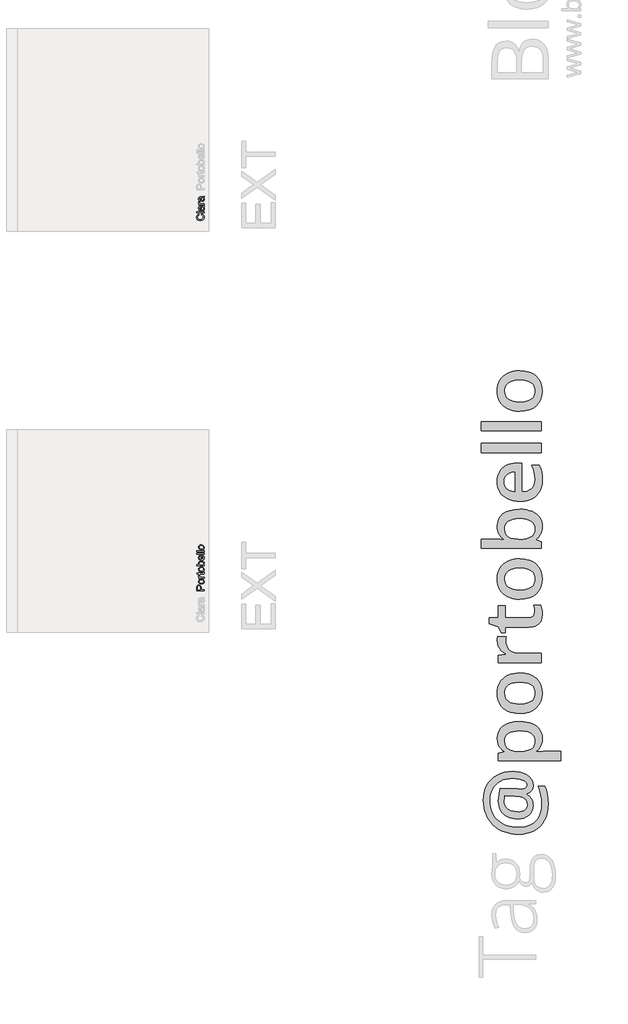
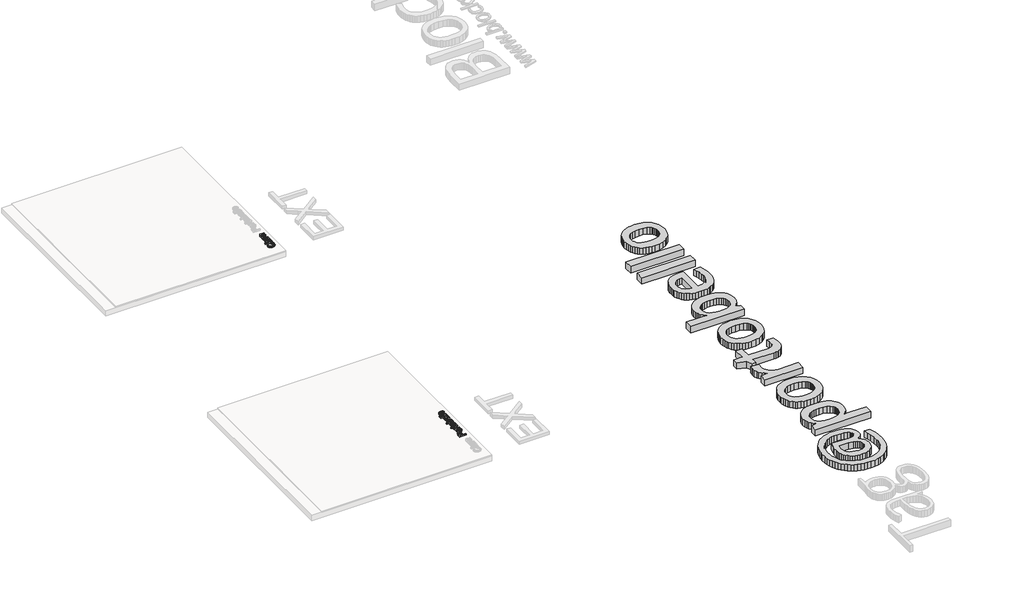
# One storey, part 5 of 6: 3 proxies.
"""IFC4 building model written with IfcOpenShell, lengths in millimetres."""

from ifc_helpers import new_model, si_unit, frame, origin, origin_with_axes, place, context, project, spatial, polyline, outline, extrude, element, save

model = new_model("IFC4")

# Units and contexts
model_context = context("Model", 3, world=origin())
ifc_project = project(units=[si_unit("LENGTHUNIT", "METRE", prefix="MILLI")], contexts=[model_context])

# Site, building, storey
site = spatial("IfcSite", under=ifc_project)
building = spatial("IfcBuilding", under=site)
storey = spatial("IfcBuildingStorey", under=building, Name="PORTOBELLO - SHOWROOM", Elevation=0.0)

# Proxies
placement = place(None, origin())
element("IfcBuildingElementProxy", 1, Name="10mm Arial", ObjectType="10mm Arial", at=placement, inside=storey, context=model_context, shape_type="SweptSolid", body=[
    extrude(outline(polyline([(153128.3895945, -6814.8655286), (153027.9332844, -6814.8655286), (153027.9332844, -6777.6358707), (153028.8897775, -6762.6262853), (153033.5864043, -6750.4248658), (153043.298489, -6742.5154029), (153056.995962, -6739.523296), (153068.8356309, -6741.5435813), (153078.7009997, -6747.6044372), (153085.3596638, -6758.9382683), (153087.5792185, -6776.7774794), (153087.5792185, -6802.3084899), (153128.3895945, -6802.3084899), (153128.3895945, -6814.8655286)]), holes=[polyline([(153075.0221797, -6802.3084899), (153075.0221797, -6776.0417154), (153070.4113921, -6757.5495138), (153064.8625053, -6753.4476295), (153057.4374204, -6752.0803348), (153047.0386226, -6755.3054336), (153041.3487144, -6763.7789822), (153040.4903231, -6776.336021), (153040.4903231, -6802.3084899), (153075.0221797, -6802.3084899)])]), frame((0.0, 0.0, 17.0), z_axis=(0.0, 0.0, 1.0), x_axis=(1.0, 0.0, 0.0)), (0.0, 0.0, 1.0), 20.0),
    extrude(outline(polyline([(153091.5032931, -6726.9662573), (153073.7161987, -6724.2500619), (153061.2143422, -6716.1014757), (153055.089107, -6706.0337717), (153053.0473619, -6693.979505), (153055.533631, -6680.7878698), (153062.9924385, -6670.2511163), (153074.8351731, -6663.3441319), (153090.4732235, -6661.0418037), (153112.8159234, -6665.1130311), (153125.4588013, -6676.9710941), (153129.9592243, -6693.979505), (153127.4821522, -6707.3305558), (153120.0509359, -6717.8550465), (153107.959881, -6724.6884546), (153091.5032931, -6726.9662573)]), holes=[polyline([(153091.4787677, -6714.4092185), (153102.8432556, -6712.9560846), (153110.9397252, -6708.596683), (153115.7865705, -6702.0361207), (153117.4021856, -6693.979505), (153115.7773734, -6685.9596775), (153110.902937, -6679.411378), (153102.6991685, -6675.0519764), (153091.0863602, -6673.5988425), (153080.052966, -6675.0611734), (153072.066861, -6679.4481662), (153067.2200158, -6686.0056628), (153065.6044007, -6693.979505), (153067.2138844, -6702.0361207), (153072.0423356, -6708.596683), (153080.1204111, -6712.9560846), (153091.4787677, -6714.4092185)])]), frame((0.0, 0.0, 17.0), z_axis=(0.0, 0.0, 1.0), x_axis=(1.0, 0.0, 0.0)), (0.0, 0.0, 1.0), 20.0),
    extrude(outline(polyline([(153128.3895945, -6646.9151351), (153054.6169917, -6646.9151351), (153054.6169917, -6635.9277262), (153065.5308243, -6635.9277262), (153055.4753831, -6628.1286279), (153053.0473619, -6620.2804787), (153056.9223856, -6607.674389), (153068.1795746, -6611.8682437), (153065.6044007, -6620.6974116), (153068.0814728, -6627.7975341), (153074.9486033, -6632.3224826), (153089.6148322, -6634.3580963), (153128.3895945, -6634.3580963), (153128.3895945, -6646.9151351)])), frame((0.0, 0.0, 17.0), z_axis=(0.0, 0.0, 1.0), x_axis=(1.0, 0.0, 0.0)), (0.0, 0.0, 1.0), 20.0),
    extrude(outline(polyline([(153117.9172204, -6573.1425323), (153128.7574765, -6571.5729025), (153129.9592243, -6580.9661561), (153127.8745597, -6591.4875812), (153122.4053807, -6596.736031), (153108.1560848, -6598.2566099), (153067.1740305, -6598.2566099), (153067.1740305, -6607.674389), (153056.9223856, -6607.674389), (153054.6169917, -6607.674389), (153054.6169917, -6598.2566099), (153036.6888758, -6598.2566099), (153029.3067105, -6585.6995711), (153054.6169917, -6585.6995711), (153054.6169917, -6573.1425323), (153067.1740305, -6573.1425323), (153067.1740305, -6585.6995711), (153107.7882028, -6585.6995711), (153114.2629259, -6585.0373835), (153116.556057, -6582.8914052), (153117.4021856, -6578.6117113), (153117.9172204, -6573.1425323)])), frame((0.0, 0.0, 17.0), z_axis=(0.0, 0.0, 1.0), x_axis=(1.0, 0.0, 0.0)), (0.0, 0.0, 1.0), 20.0),
    extrude(outline(polyline([(153091.5032931, -6563.7247533), (153073.7161987, -6561.0085579), (153061.2143422, -6552.8599717), (153055.089107, -6542.7922677), (153053.0473619, -6530.738001), (153055.533631, -6517.5463658), (153062.9924385, -6507.0096123), (153074.8351731, -6500.1026279), (153090.4732235, -6497.8002997), (153112.8159234, -6501.8715271), (153125.4588013, -6513.7295901), (153129.9592243, -6530.738001), (153127.4821522, -6544.0890518), (153120.0509359, -6554.6135425), (153107.959881, -6561.4469506), (153091.5032931, -6563.7247533)]), holes=[polyline([(153091.4787677, -6551.1677145), (153102.8432556, -6549.7145806), (153110.9397252, -6545.355179), (153115.7865705, -6538.7946167), (153117.4021856, -6530.738001), (153115.7773734, -6522.7181735), (153110.902937, -6516.169874), (153102.6991685, -6511.8104724), (153091.0863602, -6510.3573385), (153080.052966, -6511.8196694), (153072.066861, -6516.2066622), (153067.2200158, -6522.7641588), (153065.6044007, -6530.738001), (153067.2138844, -6538.7946167), (153072.0423356, -6545.355179), (153080.1204111, -6549.7145806), (153091.4787677, -6551.1677145)])]), frame((0.0, 0.0, 17.0), z_axis=(0.0, 0.0, 1.0), x_axis=(1.0, 0.0, 0.0)), (0.0, 0.0, 1.0), 20.0),
    extrude(outline(polyline([(153128.3895945, -6471.1165923), (153128.3895945, -6483.6736311), (153027.9332844, -6483.6736311), (153027.9332844, -6471.1165923), (153065.1874677, -6471.1165923), (153056.0823884, -6462.3242127), (153053.0473619, -6451.3981174), (153055.7819514, -6438.8165532), (153063.4706851, -6429.0554176), (153075.4268499, -6423.058941), (153090.3996471, -6420.8884373), (153107.1628034, -6423.1355831), (153119.634003, -6429.8770207), (153127.377919, -6439.7699807), (153129.9592243, -6451.4716938), (153126.6298923, -6462.6369124), (153116.6418961, -6471.1165923), (153128.3895945, -6471.1165923)]), holes=[polyline([(153090.9882583, -6471.1165923), (153108.5484922, -6467.6830271), (153115.1887622, -6461.1040707), (153117.4021856, -6452.5508143), (153115.7712421, -6445.303539), (153110.8784115, -6439.1108588), (153102.7543508, -6434.8618217), (153091.4297167, -6433.445476), (153079.9395357, -6434.8035737), (153071.9074455, -6438.8778668), (153067.1801619, -6444.877409), (153065.6044007, -6452.0112541), (153067.2353442, -6459.2585294), (153072.1281747, -6465.4512096), (153080.1050826, -6469.7002467), (153090.9882583, -6471.1165923)])]), frame((0.0, 0.0, 17.0), z_axis=(0.0, 0.0, 1.0), x_axis=(1.0, 0.0, 0.0)), (0.0, 0.0, 1.0), 20.0),
    extrude(outline(polyline([(153106.4147767, -6355.1111365), (153107.9844065, -6342.7993524), (153117.2611641, -6347.2353962), (153124.1957398, -6354.3140589), (153128.5183532, -6363.8759251), (153129.9592243, -6375.7615792), (153127.4729552, -6390.4952531), (153120.0141477, -6401.8321499), (153108.06718, -6409.0610311), (153092.1164298, -6411.4706582), (153075.629185, -6409.0365057), (153063.2990068, -6401.7340481), (153055.6102731, -6390.5504354), (153053.0473619, -6376.4728177), (153055.6041418, -6362.8335927), (153063.2744814, -6351.9350886), (153075.5801341, -6344.7889809), (153092.0428534, -6342.406945), (153095.4273677, -6342.4805214), (153095.4273677, -6398.9136194), (153104.8267527, -6396.74005), (153111.7368029, -6391.6908696), (153115.9858399, -6384.4037404), (153117.4021856, -6375.5163245), (153114.7779607, -6363.2045404), (153106.4147767, -6355.1111365)]), holes=[polyline([(153082.870329, -6398.9136194), (153082.870329, -6354.9639837), (153071.4905126, -6359.9917043), (153067.0759286, -6367.312556), (153065.6044007, -6376.5218687), (153070.3010275, -6391.9851752), (153075.7916662, -6396.8504146), (153082.870329, -6398.9136194)])]), frame((0.0, 0.0, 17.0), z_axis=(0.0, 0.0, 1.0), x_axis=(1.0, 0.0, 0.0)), (0.0, 0.0, 1.0), 20.0),
    extrude(outline(polyline([(153128.3895945, -6329.8499062), (153027.9332844, -6329.8499062), (153027.9332844, -6317.2928674), (153128.3895945, -6317.2928674), (153128.3895945, -6329.8499062)])), frame((0.0, 0.0, 17.0), z_axis=(0.0, 0.0, 1.0), x_axis=(1.0, 0.0, 0.0)), (0.0, 0.0, 1.0), 20.0),
    extrude(outline(polyline([(153128.3895945, -6298.4573093), (153027.9332844, -6298.4573093), (153027.9332844, -6285.9002705), (153128.3895945, -6285.9002705), (153128.3895945, -6298.4573093)])), frame((0.0, 0.0, 17.0), z_axis=(0.0, 0.0, 1.0), x_axis=(1.0, 0.0, 0.0)), (0.0, 0.0, 1.0), 20.0),
    extrude(outline(polyline([(153091.5032931, -6270.203972), (153073.7161987, -6267.4877766), (153061.2143422, -6259.3391905), (153055.089107, -6249.2714865), (153053.0473619, -6237.2172198), (153055.533631, -6224.0255846), (153062.9924385, -6213.4888311), (153074.8351731, -6206.5818467), (153090.4732235, -6204.2795185), (153112.8159234, -6208.3507459), (153125.4588013, -6220.2088089), (153129.9592243, -6237.2172198), (153127.4821522, -6250.5682706), (153120.0509359, -6261.0927613), (153107.959881, -6267.9261694), (153091.5032931, -6270.203972)]), holes=[polyline([(153091.4787677, -6257.6469333), (153102.8432556, -6256.1937994), (153110.9397252, -6251.8343978), (153115.7865705, -6245.2738355), (153117.4021856, -6237.2172198), (153115.7773734, -6229.1973923), (153110.902937, -6222.6490928), (153102.6991685, -6218.2896912), (153091.0863602, -6216.8365573), (153080.052966, -6218.2988882), (153072.066861, -6222.685881), (153067.2200158, -6229.2433776), (153065.6044007, -6237.2172198), (153067.2138844, -6245.2738355), (153072.0423356, -6251.8343978), (153080.1204111, -6256.1937994), (153091.4787677, -6257.6469333)])]), frame((0.0, 0.0, 17.0), z_axis=(0.0, 0.0, 1.0), x_axis=(1.0, 0.0, 0.0)), (0.0, 0.0, 1.0), 20.0),
])
element("IfcBuildingElementProxy", 2, Name="10mm Arial", ObjectType="10mm Arial", at=placement, inside=storey, context=model_context, shape_type="SweptSolid", body=[
    extrude(outline(polyline([(153092.6805155, -1804.2321856), (153095.9178771, -1791.6751468), (153110.5503834, -1797.4692882), (153121.2404211, -1806.5621049), (153127.7795235, -1818.506007), (153129.9592243, -1832.8534048), (153128.3098867, -1847.4184661), (153123.3618739, -1858.9852892), (153115.2868641, -1867.8512453), (153104.2565356, -1874.3137056), (153077.40115, -1879.5744182), (153062.7533152, -1878.0875618), (153050.1043059, -1873.6269926), (153039.8557267, -1866.4257025), (153032.409182, -1856.7166835), (153027.8750364, -1845.2019771), (153026.3636545, -1832.5836247), (153028.3195604, -1818.815641), (153034.1872783, -1807.4327589), (153043.6050573, -1798.7905977), (153056.211147, -1793.2447766), (153059.2032539, -1805.8018154), (153043.7644729, -1816.1025113), (153038.9206933, -1833.074134), (153044.2917704, -1852.7190325), (153058.7127446, -1863.816806), (153077.3766245, -1867.0173794), (153099.0080858, -1863.2281949), (153112.8281861, -1851.4314455), (153117.4021856, -1834.1042036), (153115.8448185, -1823.6226324), (153111.1727171, -1814.8885007), (153103.4349325, -1808.2942159), (153092.6805155, -1804.2321856)])), frame((0.0, 0.0, 17.0), z_axis=(0.0, 0.0, 1.0), x_axis=(1.0, 0.0, 0.0)), (0.0, 0.0, 1.0), 20.0),
    extrude(outline(polyline([(153128.3895945, -1775.9788483), (153027.9332844, -1775.9788483), (153027.9332844, -1763.4218096), (153128.3895945, -1763.4218096), (153128.3895945, -1775.9788483)])), frame((0.0, 0.0, 17.0), z_axis=(0.0, 0.0, 1.0), x_axis=(1.0, 0.0, 0.0)), (0.0, 0.0, 1.0), 20.0),
    extrude(outline(polyline([(153118.9718154, -1697.497356), (153127.4821522, -1709.6742501), (153129.9592243, -1723.1264684), (153128.4693023, -1733.6203023), (153123.999536, -1741.3611526), (153117.2121132, -1746.1344215), (153108.7692214, -1747.7255111), (153098.8364076, -1745.3220154), (153091.6259205, -1739.0067078), (153087.5056421, -1730.2143281), (153085.6171812, -1719.3495465), (153081.3006991, -1697.5709324), (153078.504796, -1697.497356), (153069.2341697, -1700.9554468), (153065.6044007, -1714.8368607), (153068.0201591, -1727.5410523), (153076.5918096, -1733.5988425), (153075.0221797, -1746.1558813), (153062.7594466, -1740.7234905), (153055.5734849, -1729.7851325), (153053.0473619, -1713.21818), (153055.2791793, -1698.0001281), (153060.8832484, -1689.4039521), (153069.4058479, -1685.5534539), (153080.3932569, -1684.9403173), (153096.0159789, -1684.9403173), (153117.8313812, -1684.3026551), (153128.3895945, -1681.8010576), (153128.3895945, -1694.3580963), (153118.9718154, -1697.497356)]), holes=[polyline([(153093.8577379, -1697.497356), (153097.7082361, -1717.7553912), (153099.7438498, -1728.5588592), (153103.0547878, -1733.4516897), (153107.8863046, -1735.1684723), (153114.6798588, -1731.4283387), (153117.4021856, -1720.4531925), (153114.397816, -1707.749001), (153107.1260152, -1699.5574952), (153097.4139305, -1697.5709324), (153093.8577379, -1697.497356)])]), frame((0.0, 0.0, 17.0), z_axis=(0.0, 0.0, 1.0), x_axis=(1.0, 0.0, 0.0)), (0.0, 0.0, 1.0), 20.0),
    extrude(outline(polyline([(153128.3895945, -1667.674389), (153054.6169917, -1667.674389), (153054.6169917, -1656.68698), (153065.5308243, -1656.68698), (153055.4753831, -1648.8878817), (153053.0473619, -1641.0397325), (153056.9223856, -1628.4336428), (153068.1795746, -1632.6274975), (153065.6044007, -1641.4566654), (153068.0814728, -1648.5567879), (153074.9486033, -1653.0817365), (153089.6148322, -1655.1173502), (153128.3895945, -1655.1173502), (153128.3895945, -1667.674389)])), frame((0.0, 0.0, 17.0), z_axis=(0.0, 0.0, 1.0), x_axis=(1.0, 0.0, 0.0)), (0.0, 0.0, 1.0), 20.0),
    extrude(outline(polyline([(153118.9718154, -1573.4965982), (153127.4821522, -1585.6734922), (153129.9592243, -1599.1257105), (153128.4693023, -1609.6195444), (153123.999536, -1617.3603947), (153117.2121132, -1622.1336636), (153108.7692214, -1623.7247533), (153098.8364076, -1621.3212576), (153091.6259205, -1615.00595), (153087.5056421, -1606.2135703), (153085.6171812, -1595.3487887), (153081.3006991, -1573.5701746), (153078.504796, -1573.4965982), (153069.2341697, -1576.9546889), (153065.6044007, -1590.8361029), (153068.0201591, -1603.5402945), (153076.5918096, -1609.5980846), (153075.0221797, -1622.1551234), (153062.7594466, -1616.7227326), (153055.5734849, -1605.7843746), (153053.0473619, -1589.2174221), (153055.2791793, -1573.9993702), (153060.8832484, -1565.4031943), (153069.4058479, -1561.5526961), (153080.3932569, -1560.9395594), (153096.0159789, -1560.9395594), (153117.8313812, -1560.3018973), (153128.3895945, -1557.8002997), (153128.3895945, -1570.3573385), (153118.9718154, -1573.4965982)]), holes=[polyline([(153093.8577379, -1573.4965982), (153097.7082361, -1593.7546334), (153099.7438498, -1604.5581013), (153103.0547878, -1609.4509319), (153107.8863046, -1611.1677145), (153114.6798588, -1607.4275809), (153117.4021856, -1596.4524347), (153114.397816, -1583.7482431), (153107.1260152, -1575.5567374), (153097.4139305, -1573.5701746), (153093.8577379, -1573.4965982)])]), frame((0.0, 0.0, 17.0), z_axis=(0.0, 0.0, 1.0), x_axis=(1.0, 0.0, 0.0)), (0.0, 0.0, 1.0), 20.0),
])
element("IfcBuildingElementProxy", 3, Name="80mm OpenSans Bold", ObjectType="80mm OpenSans Bold", at=placement, inside=storey, context=model_context, shape_type="SweptSolid", body=[
    extrude(outline(polyline([(157242.3548992, -9227.593007), (157292.5614689, -9230.4473602), (157341.7464808, -9239.0104197), (157388.0470936, -9253.4023688), (157429.6004664, -9273.7433907), (157464.8442165, -9299.973394), (157492.215961, -9332.0322868), (157502.469098, -9350.3226814), (157509.7927673, -9370.2205275), (157515.6517027, -9414.8385743), (157509.8228131, -9454.709381), (157502.5367011, -9471.918126), (157492.3361443, -9487.3090987), (157466.2563701, -9511.2556194), (157434.6481646, -9525.1668353), (157434.6481646, -9531.8970996), (157465.8056828, -9556.5346743), (157491.9755944, -9589.1043461), (157502.3338918, -9608.3937643), (157509.7326756, -9629.7262984), (157514.1719459, -9653.1019485), (157515.6517027, -9678.5207145), (157512.0537154, -9720.0740874), (157501.2597536, -9756.5196703), (157483.2698173, -9787.8574635), (157458.0839064, -9814.0874667), (157426.9789684, -9834.8040615), (157391.2319508, -9849.6016292), (157350.8428536, -9858.4801698), (157305.8116768, -9861.4396833), (157270.094705, -9859.6294225), (157236.4959637, -9854.19864), (157205.015453, -9845.1473359), (157175.6531727, -9832.4755102), (157148.8598103, -9816.4460638), (157125.0860531, -9797.3218976), (157104.331901, -9775.1030117), (157086.5973541, -9749.7894061), (157072.4007029, -9721.7641649), (157062.2602377, -9691.4103725), (157056.1759586, -9658.7280288), (157054.1478656, -9623.7171339), (157056.3111648, -9575.3734051), (157062.8010625, -9526.9695847), (157081.3092893, -9450.4128284), (157306.2924099, -9460.7485914), (157333.4538337, -9462.1907909), (157349.0776615, -9462.4311575), (157393.3652042, -9458.4050172), (157408.8838716, -9453.3723419), (157419.9858031, -9446.3265965), (157433.3261484, -9428.8399277), (157437.7729302, -9408.5890431), (157436.1128985, -9394.6177356), (157431.1328034, -9381.7881693), (157422.8326448, -9370.1003442), (157411.2124229, -9359.5542605), (157380.2051338, -9342.0075), (157340.3042813, -9329.2680711), (157293.5830269, -9321.5162489), (157242.1145326, -9318.9323081), (157195.3331866, -9321.3134396), (157152.0972477, -9328.4568339), (157112.4067159, -9340.3624912), (157076.2615911, -9357.0304113), (157043.9322859, -9377.844655), (157015.6892125, -9402.1892829), (156991.532371, -9430.0642949), (156971.4617614, -9461.4696911), (156955.6877045, -9495.7970436), (156944.420521, -9532.4379244), (156937.6602109, -9571.3923336), (156935.4067742, -9612.6602711), (156937.1569433, -9654.9272322), (156942.4074509, -9694.715413), (156951.1582967, -9732.0248134), (156963.409481, -9766.8554334), (156978.822988, -9799.1171355), (156997.0608024, -9828.7197824), (157018.1229241, -9855.6633739), (157042.0093532, -9879.9479101), (157068.479723, -9901.490765), (157097.293667, -9920.2093126), (157128.4511852, -9936.1035528), (157161.9522775, -9949.1734857), (157197.5039973, -9959.3740425), (157234.8133977, -9966.6601545), (157314.7052403, -9972.4890441), (157363.8677177, -9970.2506303), (157409.1993528, -9963.5353889), (157450.7001454, -9952.34332), (157488.3700957, -9936.6744234), (157521.9613255, -9916.6488826), (157551.2259568, -9892.3868807), (157576.1639897, -9863.8884179), (157596.7754241, -9831.153494), (157612.9175423, -9794.377407), (157624.4476268, -9753.7554547), (157631.3656775, -9709.287637), (157633.6716944, -9660.9739541), (157630.2464706, -9598.2983679), (157619.9707992, -9535.7429649), (157604.8877962, -9476.1921443), (157587.0405775, -9422.5303049), (157670.4477814, -9422.5303049), (157688.7156416, -9473.4880202), (157703.1376365, -9530.2145336), (157712.5119332, -9592.16902), (157715.6366988, -9658.8106548), (157712.6771852, -9720.5473091), (157703.7986446, -9777.6418837), (157689.0010769, -9830.0943788), (157668.2844822, -9877.9047942), (157641.9868758, -9920.7351145), (157610.4462734, -9958.2473241), (157573.6626749, -9990.4414232), (157531.6360804, -10017.3174116), (157484.7871313, -10038.5072281), (157433.5364692, -10053.6428113), (157377.884094, -10062.7241612), (157317.8300059, -10065.7512779), (157268.8102461, -10063.7907879), (157221.7434648, -10057.9093181), (157176.6296619, -10048.1068685), (157133.4688376, -10034.3834389), (157092.6365645, -10016.9643732), (157054.5084155, -9996.075015), (157019.0843905, -9971.7153642), (156986.3644895, -9943.8854209), (156956.7468198, -9912.7879944), (156930.6294884, -9878.6258939), (156908.0124953, -9841.3991196), (156888.8958406, -9801.1076713), (156873.7001657, -9757.9919157), (156862.8461123, -9712.2922193), (156856.3336802, -9664.0085822), (156854.1628695, -9613.1410043), (156857.1073601, -9558.4876527), (156865.940832, -9507.0191584), (156880.6632852, -9458.7355213), (156901.2747195, -9413.6367414), (156927.3169364, -9372.4739642), (156958.3317369, -9335.9983354), (156994.3191211, -9304.209855), (157035.2790889, -9277.1085229), (157080.8060218, -9255.4454847), (157130.4943011, -9239.971886), (157184.3439269, -9230.6877268), (157242.3548992, -9227.593007)]), holes=[polyline([(157308.4557092, -9763.1297513), (157339.838571, -9761.5072769), (157366.6845136, -9756.6398536), (157388.993537, -9748.5274815), (157406.7656411, -9737.1701605), (157420.3313301, -9723.018578), (157430.0211079, -9706.5234213), (157435.8349746, -9687.6846905), (157437.7729302, -9666.5023855), (157434.9711572, -9640.0245042), (157426.5658383, -9617.5577402), (157412.5569735, -9599.1020936), (157392.9445627, -9584.6575643), (157368.7501639, -9573.5180756), (157340.9953352, -9564.9775504), (157274.8043877, -9555.6933912), (157141.4009348, -9549.4438601), (157135.3917703, -9581.0520656), (157132.9881044, -9619.8712686), (157134.5579987, -9644.5464005), (157139.2676814, -9666.6526146), (157147.1171526, -9686.1899108), (157158.1064122, -9703.1582892), (157186.9804479, -9730.2596213), (157223.3659392, -9748.8279397), (157264.7089913, -9759.5542984), (157308.4557092, -9763.1297513)])]), origin_with_axes(), (0.0, 0.0, 1.0), 100.0),
    extrude(outline(polyline([(157038.7644044, -8787.4817957), (157043.4665756, -8738.9202347), (157057.5730894, -8695.391349), (157081.0839457, -8656.8951387), (157113.9991445, -8623.4316036), (157156.1985025, -8596.3528059), (157207.5618364, -8577.0108075), (157268.0891463, -8565.4056085), (157337.7804322, -8561.5372088), (157384.8847707, -8563.3324467), (157428.1282211, -8568.7181604), (157467.5107832, -8577.6943499), (157503.0324572, -8590.2610153), (157534.5655481, -8606.0500951), (157561.9823614, -8624.6935282), (157585.2828969, -8646.1913143), (157604.4671547, -8670.5434536), (157619.4525088, -8697.3818848), (157630.1563331, -8726.3385464), (157636.5786277, -8757.4134386), (157638.7193926, -8790.6065613), (157635.8650394, -8831.2585594), (157627.30198, -8866.2018512), (157614.1419096, -8895.9772616), (157597.4965238, -8921.1256152), (157578.2972431, -8942.1576911), (157557.4754879, -8959.5842683), (157557.4754879, -8966.7952657), (157603.6258717, -8961.8677508), (157649.7762554, -8959.5842683), (157884.8547724, -8959.5842683), (157884.8547724, -9081.9308584), (157054.1478656, -9081.9308584), (157054.1478656, -8982.4190936), (157128.9018725, -8965.3530663), (157128.9018725, -8959.5842683), (157105.4961766, -8941.7370496), (157083.8331384, -8920.4045154), (157065.2047284, -8894.8655661), (157050.9029167, -8864.3991019), (157041.7990325, -8828.7046645), (157038.7644044, -8787.4817957)]), holes=[polyline([(157138.2761692, -8820.1716508), (157143.3238675, -8865.4206599), (157149.6334902, -8884.3044594), (157158.4669621, -8900.6944557), (157169.8242831, -8914.808481), (157183.7054532, -8926.8643673), (157219.0393407, -8944.8017235), (157264.588808, -8955.4078989), (157320.4740383, -8959.5842683), (157337.7804322, -8959.5842683), (157397.3312528, -8956.2792278), (157447.1472269, -8946.3641063), (157486.6875296, -8928.7272083), (157502.4014949, -8916.5962074), (157515.4113361, -8902.2568385), (157525.6118929, -8885.4386892), (157532.898005, -8865.8713472), (157537.2696722, -8843.5548124), (157538.7268946, -8818.4890848), (157537.1870461, -8797.2016193), (157532.5675009, -8777.8070408), (157524.8682588, -8760.305349), (157514.0893199, -8744.6965441), (157484.1937263, -8719.0975032), (157443.7820947, -8700.9498262), (157394.0262123, -8690.1333301), (157336.0978661, -8686.5278313), (157291.7352088, -8688.5784587), (157252.6305705, -8694.7303409), (157218.7839512, -8704.9834779), (157190.1953509, -8719.3378697), (157167.4807089, -8737.9437455), (157151.2559647, -8760.9513342), (157141.5211181, -8788.360636), (157138.2761692, -8820.1716508)])]), origin_with_axes(), (0.0, 0.0, 1.0), 100.0),
    extrude(outline(polyline([(157337.7804322, -7912.5474378), (157405.8342206, -7917.2045404), (157465.775637, -7931.1758479), (157517.304223, -7954.0707648), (157560.1195203, -7985.4986954), (157593.9811626, -8024.8587232), (157618.648783, -8071.5499317), (157633.7017402, -8125.1216336), (157638.7193926, -8185.1231416), (157633.7017402, -8241.7595175), (157618.648783, -8293.4082867), (157593.9811626, -8339.2882581), (157560.1195203, -8378.61824), (157517.304223, -8410.5869954), (157465.775637, -8434.383287), (157405.8342206, -8449.1658318), (157337.7804322, -8454.0933467), (157291.7577432, -8452.0352078), (157249.3555759, -8445.8607913), (157210.5739302, -8435.570097), (157175.4128061, -8421.163125), (157144.0449672, -8402.932822), (157116.6431769, -8381.1721349), (157093.2074351, -8355.8810637), (157073.737742, -8327.0596082), (157058.4369068, -8295.0232497), (157047.5077388, -8260.0874693), (157040.950238, -8222.2522671), (157038.7644044, -8181.5176429), (157040.950238, -8143.0214325), (157047.5077388, -8106.8537734), (157058.4369068, -8073.0146656), (157073.737742, -8041.504109), (157093.2224581, -8012.8178597), (157116.7032685, -7987.4516739), (157144.1801734, -7965.4055515), (157175.6531727, -7946.6794925), (157210.8894113, -7931.7467186), (157249.6560341, -7921.0804515), (157291.953041, -7914.6806912), (157337.7804322, -7912.5474378)]), holes=[polyline([(157337.7804322, -8328.621991), (157396.6401989, -8324.8061715), (157446.3059438, -8313.358713), (157486.0866131, -8293.8589741), (157502.0108992, -8280.9317589), (157515.2911528, -8265.8863131), (157525.7546106, -8248.624988), (157533.228509, -8229.0501345), (157537.712848, -8207.1617526), (157539.2076277, -8182.9598424), (157537.712848, -8158.7579322), (157533.228509, -8136.8695503), (157525.7546106, -8117.2946968), (157515.2911528, -8100.0333717), (157502.0108992, -8085.0029488), (157486.0866131, -8072.1208023), (157446.3059438, -8052.8013383), (157396.6401989, -8041.5341548), (157337.7804322, -8037.778427), (157278.9206654, -8041.5341548), (157229.7356536, -8052.8013383), (157190.6460382, -8072.1208023), (157175.0447448, -8085.0029488), (157162.0724608, -8100.0333717), (157151.871904, -8117.3247426), (157144.585792, -8136.9897336), (157140.2141248, -8159.0283446), (157138.7569024, -8183.4405756), (157141.9718054, -8218.7369058), (157151.6165145, -8248.9104233), (157167.6910297, -8273.961128), (157190.1953509, -8293.8890199), (157218.7088367, -8309.0846948), (157252.8108455, -8319.9387482), (157292.5013773, -8326.4511803), (157337.7804322, -8328.621991)])]), origin_with_axes(), (0.0, 0.0, 1.0), 100.0),
    extrude(outline(polyline([(157038.7644044, -7483.4930893), (157040.3267871, -7451.8848838), (157044.5332023, -7422.4399775), (157158.4669621, -7433.7372068), (157153.7798138, -7460.4178974), (157152.217431, -7488.7811541), (157154.8614634, -7520.5095429), (157162.7935606, -7550.7957322), (157176.10386, -7578.6782557), (157194.8824993, -7603.195647), (157219.0693866, -7623.5667148), (157248.6044303, -7639.0102677), (157283.397493, -7648.7451143), (157323.3584372, -7651.9900631), (157623.3359314, -7651.9900631), (157623.3359314, -7774.3366533), (157054.1478656, -7774.3366533), (157054.1478656, -7678.9111203), (157150.5348649, -7662.3258261), (157150.5348649, -7656.5570282), (157121.3002794, -7637.4178391), (157094.6496346, -7614.1323265), (157071.8148094, -7586.8807653), (157054.0276823, -7555.8434304), (157042.5802238, -7521.2907343), (157038.7644044, -7483.4930893)])), origin_with_axes(), (0.0, 0.0, 1.0), 100.0),
    extrude(outline(polyline([(157540.1690941, -7099.1469249), (157535.8424956, -7052.0350749), (157525.266366, -7009.4901899), (157617.5671334, -7009.4901899), (157632.4698615, -7061.8901047), (157637.1570098, -7094.7001432), (157638.7193926, -7128.7120145), (157634.6331607, -7175.0126273), (157622.374465, -7216.3256336), (157612.7297559, -7234.7362114), (157600.1405562, -7251.1487421), (157584.6068659, -7265.5632256), (157566.1286849, -7277.9796618), (157544.2553259, -7287.9698979), (157518.5361017, -7295.1057808), (157488.9710121, -7299.3873105), (157455.5600572, -7300.8144871), (157146.9293662, -7300.8144871), (157146.9293662, -7379.1739928), (157092.6065187, -7379.1739928), (157049.5809005, -7295.0456891), (156931.0801757, -7255.1448365), (156931.0801757, -7178.4678969), (157054.1478656, -7178.4678969), (157054.1478656, -7014.2975215), (157146.9293662, -7014.2975215), (157146.9293662, -7178.4678969), (157454.1178578, -7178.4678969), (157492.0657319, -7173.029603), (157506.870811, -7166.2317356), (157518.8966516, -7156.7147213), (157528.2033452, -7144.9592931), (157534.8509834, -7131.4461844), (157540.1690941, -7099.1469249)])), origin_with_axes(), (0.0, 0.0, 1.0), 100.0),
    extrude(outline(polyline([(157337.7804322, -6389.5847754), (157405.8342206, -6394.2418779), (157465.775637, -6408.2131855), (157517.304223, -6431.1081024), (157560.1195203, -6462.5360329), (157593.9811626, -6501.8960607), (157618.648783, -6548.5872692), (157633.7017402, -6602.1589712), (157638.7193926, -6662.1604792), (157633.7017402, -6718.796855), (157618.648783, -6770.4456243), (157593.9811626, -6816.3255956), (157560.1195203, -6855.6555775), (157517.304223, -6887.6243329), (157465.775637, -6911.4206245), (157405.8342206, -6926.2031693), (157337.7804322, -6931.1306842), (157291.7577432, -6929.0725454), (157249.3555759, -6922.8981288), (157210.5739302, -6912.6074345), (157175.4128061, -6898.2004625), (157144.0449672, -6879.9701596), (157116.6431769, -6858.2094725), (157093.2074351, -6832.9184012), (157073.737742, -6804.0969457), (157058.4369068, -6772.0605872), (157047.5077388, -6737.1248069), (157040.950238, -6699.2896046), (157038.7644044, -6658.5549804), (157040.950238, -6620.0587701), (157047.5077388, -6583.8911109), (157058.4369068, -6550.0520031), (157073.737742, -6518.5414465), (157093.2224581, -6489.8551973), (157116.7032685, -6464.4890114), (157144.1801734, -6442.442889), (157175.6531727, -6423.71683), (157210.8894113, -6408.7840561), (157249.6560341, -6398.117789), (157291.953041, -6391.7180288), (157337.7804322, -6389.5847754)]), holes=[polyline([(157337.7804322, -6805.6593285), (157396.6401989, -6801.843509), (157446.3059438, -6790.3960506), (157486.0866131, -6770.8963116), (157502.0108992, -6757.9690964), (157515.2911528, -6742.9236506), (157525.7546106, -6725.6623255), (157533.228509, -6706.087472), (157537.712848, -6684.1990901), (157539.2076277, -6659.9971799), (157537.712848, -6635.7952697), (157533.228509, -6613.9068879), (157525.7546106, -6594.3320343), (157515.2911528, -6577.0707092), (157502.0108992, -6562.0402864), (157486.0866131, -6549.1581399), (157446.3059438, -6529.8386759), (157396.6401989, -6518.5714923), (157337.7804322, -6514.8157645), (157278.9206654, -6518.5714923), (157229.7356536, -6529.8386759), (157190.6460382, -6549.1581399), (157175.0447448, -6562.0402864), (157162.0724608, -6577.0707092), (157151.871904, -6594.3620802), (157144.585792, -6614.0270711), (157140.2141248, -6636.0656821), (157138.7569024, -6660.4779131), (157141.9718054, -6695.7742433), (157151.6165145, -6725.9477608), (157167.6910297, -6750.9984655), (157190.1953509, -6770.9263574), (157218.7088367, -6786.1220323), (157252.8108455, -6796.9760857), (157292.5013773, -6803.4885178), (157337.7804322, -6805.6593285)])]), origin_with_axes(), (0.0, 0.0, 1.0), 100.0),
    extrude(outline(polyline([(156823.395947, -6129.5081338), (157013.5259133, -6129.5081338), (157078.0643405, -6131.3108832), (157127.4596731, -6134.7961986), (157127.4596731, -6129.5081338), (157093.0872518, -6101.5955645), (157064.4836286, -6064.4889734), (157053.231468, -6042.1574157), (157045.1942104, -6016.8663444), (157040.3718559, -5988.6157596), (157038.7644044, -5957.4056612), (157043.48911, -5908.8290773), (157057.6632269, -5865.2551229), (157081.286755, -5826.683798), (157114.3596943, -5793.1151025), (157156.6867471, -5765.9311444), (157208.0726154, -5746.5140315), (157268.5172993, -5734.8637637), (157338.0207987, -5730.9803411), (157385.2152748, -5732.7605561), (157428.488771, -5738.1012011), (157467.8412873, -5747.0022761), (157503.2728237, -5759.4637811), (157534.7007543, -5775.1477006), (157562.042453, -5793.716019), (157585.2979198, -5815.1687364), (157604.4671547, -5839.5058528), (157619.4525088, -5866.4043756), (157630.1563331, -5895.5413122), (157636.5786277, -5926.9166626), (157638.7193926, -5960.5304268), (157637.2171015, -5991.6428762), (157632.7102281, -6019.6005143), (157625.1987724, -6044.4033409), (157614.6827344, -6066.0513562), (157588.6029603, -6101.8659769), (157558.4369543, -6129.0274007), (157558.4369543, -6137.9209642), (157623.3359314, -6160.0346897), (157623.3359314, -6251.3739908), (156823.395947, -6251.3739908), (156823.395947, -6129.5081338)]), holes=[polyline([(157137.7954361, -5989.6147832), (157143.053455, -6035.9754877), (157149.6259788, -6055.1672569), (157158.827512, -6071.6999709), (157170.6355203, -6085.8440419), (157185.0274694, -6097.8698825), (157221.5631898, -6115.5668721), (157268.8853606, -6125.7824518), (157327.4446691, -6129.5081338), (157338.5015319, -6129.5081338), (157384.3063886, -6127.615247), (157424.3724933, -6121.9365865), (157458.6998457, -6112.4721523), (157487.2884461, -6099.2219445), (157509.7927673, -6080.9540843), (157525.8672824, -6056.4366929), (157535.5119915, -6025.6697705), (157538.7268946, -5988.6533169), (157535.4594113, -5958.5474025), (157525.6569617, -5932.1671701), (157509.3195456, -5909.5126198), (157486.447163, -5890.5837515), (157457.4604555, -5875.6509776), (157422.7800647, -5864.9847105), (157382.4059904, -5858.5849503), (157336.3382327, -5856.4516969), (157290.0000626, -5858.5699274), (157249.7762174, -5864.9246189), (157215.6666971, -5875.5157714), (157187.6715018, -5890.3433849), (157165.850723, -5909.2572303), (157150.2644525, -5932.1070785), (157140.9126902, -5958.8929295), (157137.7954361, -5989.6147832)])]), origin_with_axes(), (0.0, 0.0, 1.0), 100.0),
    extrude(outline(polyline([(157038.7644044, -5361.2965383), (157040.7248943, -5324.317642), (157046.6063641, -5290.0578926), (157056.4088138, -5258.5172902), (157070.1322433, -5229.6958347), (157087.4536601, -5203.8188699), (157108.0500716, -5181.1117394), (157131.9214777, -5161.5744432), (157159.0678786, -5145.2069812), (157189.2714419, -5132.2722545), (157222.3143354, -5123.033164), (157258.1965592, -5117.4897098), (157296.9181132, -5115.6418917), (157361.8170903, -5115.6418917), (157361.8170903, -5498.5458565), (157402.8221269, -5495.0304953), (157438.824534, -5486.4073441), (157469.8243116, -5472.6764031), (157495.8214597, -5453.8376723), (157516.3803139, -5430.2967702), (157531.0652098, -5402.4593154), (157539.8761473, -5370.325308), (157542.8131265, -5333.894748), (157540.1690941, -5281.6751081), (157532.2369969, -5235.1040828), (157519.1370181, -5190.6362652), (157500.9893412, -5144.7262481), (157599.7800063, -5144.7262481), (157617.2666752, -5187.962187), (157629.3450959, -5232.0995006), (157636.3758184, -5281.1042374), (157638.7193926, -5338.9424462), (157636.6462308, -5379.9549942), (157630.4267455, -5418.3836015), (157620.0609367, -5454.228268), (157605.5488043, -5487.4889937), (157586.9203942, -5517.7150914), (157564.2057522, -5544.4558736), (157537.4048784, -5567.7113404), (157506.5177726, -5587.4814918), (157471.5895037, -5603.2555487), (157432.6651403, -5614.5227322), (157389.7446826, -5621.2830424), (157342.8281304, -5623.5364791), (157296.0993646, -5621.4933631), (157253.0211662, -5615.3640153), (157213.5935354, -5605.1484356), (157177.8164719, -5590.8466239), (157145.8852738, -5572.8566876), (157117.9952389, -5551.5767336), (157094.1463671, -5527.0067621), (157074.3386585, -5499.146773), (157058.7749223, -5468.4023849), (157047.6579679, -5435.1792164), (157040.9877952, -5399.4772675), (157038.7644044, -5361.2965383)]), holes=[polyline([(157130.344072, -5361.2965383), (157132.6425775, -5388.6532599), (157139.5380938, -5413.2758116), (157151.030621, -5435.1641935), (157167.1201591, -5454.3184055), (157187.641456, -5470.2577144), (157212.4292597, -5482.5013872), (157241.4835703, -5491.0494237), (157274.8043877, -5495.9018241), (157274.8043877, -5234.8637162), (157234.9035351, -5238.6494899), (157199.8100142, -5249.0453446), (157170.695612, -5266.261601), (157148.7321155, -5290.5085799), (157134.9410829, -5322.0867396), (157130.344072, -5361.2965383)])]), origin_with_axes(), (0.0, 0.0, 1.0), 100.0),
    extrude(outline(polyline([(157623.3359314, -4852.200118), (157623.3359314, -4974.5467081), (156823.395947, -4974.5467081), (156823.395947, -4852.200118), (157623.3359314, -4852.200118)])), origin_with_axes(), (0.0, 0.0, 1.0), 100.0),
    extrude(outline(polyline([(157623.3359314, -4559.9143545), (157623.3359314, -4682.2609446), (156823.395947, -4682.2609446), (156823.395947, -4559.9143545), (157623.3359314, -4559.9143545)])), origin_with_axes(), (0.0, 0.0, 1.0), 100.0),
    extrude(outline(polyline([(157337.7804322, -3882.0805937), (157405.8342206, -3886.7376962), (157465.775637, -3900.7090038), (157517.304223, -3923.6039207), (157560.1195203, -3955.0318513), (157593.9811626, -3994.3918791), (157618.648783, -4041.0830876), (157633.7017402, -4094.6547895), (157638.7193926, -4154.6562975), (157633.7017402, -4211.2926733), (157618.648783, -4262.9414426), (157593.9811626, -4308.8214139), (157560.1195203, -4348.1513959), (157517.304223, -4380.1201513), (157465.775637, -4403.9164429), (157405.8342206, -4418.6989876), (157337.7804322, -4423.6265026), (157291.7577432, -4421.5683637), (157249.3555759, -4415.3939471), (157210.5739302, -4405.1032529), (157175.4128061, -4390.6962809), (157144.0449672, -4372.4659779), (157116.6431769, -4350.7052908), (157093.2074351, -4325.4142195), (157073.737742, -4296.5927641), (157058.4369068, -4264.5564056), (157047.5077388, -4229.6206252), (157040.950238, -4191.7854229), (157038.7644044, -4151.0507988), (157040.950238, -4112.5545884), (157047.5077388, -4076.3869293), (157058.4369068, -4042.5478214), (157073.737742, -4011.0372649), (157093.2224581, -3982.3510156), (157116.7032685, -3956.9848298), (157144.1801734, -3934.9387073), (157175.6531727, -3916.2126483), (157210.8894113, -3901.2798744), (157249.6560341, -3890.6136074), (157291.953041, -3884.2138471), (157337.7804322, -3882.0805937)]), holes=[polyline([(157337.7804322, -4298.1551469), (157396.6401989, -4294.3393274), (157446.3059438, -4282.8918689), (157486.0866131, -4263.39213), (157502.0108992, -4250.4649147), (157515.2911528, -4235.419469), (157525.7546106, -4218.1581438), (157533.228509, -4198.5832903), (157537.712848, -4176.6949085), (157539.2076277, -4152.4929983), (157537.712848, -4128.2910881), (157533.228509, -4106.4027062), (157525.7546106, -4086.8278527), (157515.2911528, -4069.5665275), (157502.0108992, -4054.5361047), (157486.0866131, -4041.6539582), (157446.3059438, -4022.3344942), (157396.6401989, -4011.0673107), (157337.7804322, -4007.3115828), (157278.9206654, -4011.0673107), (157229.7356536, -4022.3344942), (157190.6460382, -4041.6539582), (157175.0447448, -4054.5361047), (157162.0724608, -4069.5665275), (157151.871904, -4086.8578985), (157144.585792, -4106.5228895), (157140.2141248, -4128.5615005), (157138.7569024, -4152.9737314), (157141.9718054, -4188.2700617), (157151.6165145, -4218.4435792), (157167.6910297, -4243.4942839), (157190.1953509, -4263.4221758), (157218.7088367, -4278.6178506), (157252.8108455, -4289.4719041), (157292.5013773, -4295.9843362), (157337.7804322, -4298.1551469)])]), origin_with_axes(), (0.0, 0.0, 1.0), 100.0),
])

save(model, "model.ifc")
